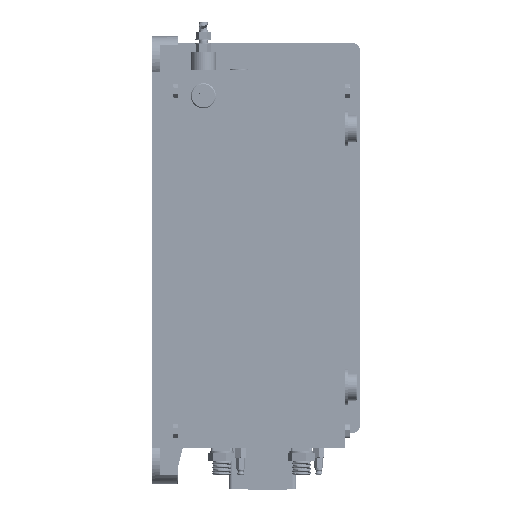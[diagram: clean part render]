
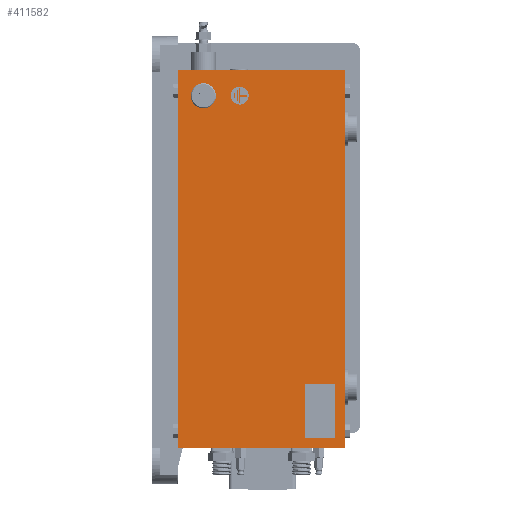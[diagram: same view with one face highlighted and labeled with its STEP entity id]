
A CAD part, left-side view. The second image highlights one B-rep face of the part: STEP entity #411582.
In plain terms, the highlighted planar face has unit normal (-1, 0, 0).
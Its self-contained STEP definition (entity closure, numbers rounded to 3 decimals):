
#8572 = CARTESIAN_POINT ( 'NONE',  ( -493.592, -85.936, -148.628 ) ) ;
#9611 = VERTEX_POINT ( 'NONE', #189044 ) ;
#21515 = EDGE_CURVE ( 'NONE', #218942, #453712, #30797, .T. ) ;
#30797 = LINE ( 'NONE', #283880, #85204 ) ;
#40873 = VERTEX_POINT ( 'NONE', #306424 ) ;
#71154 = LINE ( 'NONE', #220144, #448772 ) ;
#73765 = ORIENTED_EDGE ( 'NONE', *, *, #424868, .T. ) ;
#74831 = DIRECTION ( 'NONE',  ( 1., 0., 0. ) ) ;
#80934 = ORIENTED_EDGE ( 'NONE', *, *, #21515, .T. ) ;
#85204 = VECTOR ( 'NONE', #184434, 1000. ) ;
#86537 = DIRECTION ( 'NONE',  ( 0., 0., -1. ) ) ;
#92512 = EDGE_LOOP ( 'NONE', ( #331808, #298315, #73765, #80934 ) ) ;
#105702 = LINE ( 'NONE', #401207, #368453 ) ;
#106881 = CARTESIAN_POINT ( 'NONE',  ( -493.592, 100.064, -148.628 ) ) ;
#112632 = PLANE ( 'NONE',  #246499 ) ;
#183691 = DIRECTION ( 'NONE',  ( 0., 1., 0. ) ) ;
#184434 = DIRECTION ( 'NONE',  ( 0., 0., -1. ) ) ;
#188265 = DIRECTION ( 'NONE',  ( 0., -1., 0. ) ) ;
#189044 = CARTESIAN_POINT ( 'NONE',  ( -493.592, -85.936, -148.628 ) ) ;
#195203 = EDGE_CURVE ( 'NONE', #40873, #9611, #332598, .T. ) ;
#202541 = EDGE_CURVE ( 'NONE', #453712, #9611, #71154, .T. ) ;
#218942 = VERTEX_POINT ( 'NONE', #422437 ) ;
#220144 = CARTESIAN_POINT ( 'NONE',  ( -493.592, -77.936, -148.628 ) ) ;
#246499 = AXIS2_PLACEMENT_3D ( 'NONE', #441240, #74831, #188265 ) ;
#283880 = CARTESIAN_POINT ( 'NONE',  ( -493.592, 100.064, 271.372 ) ) ;
#298315 = ORIENTED_EDGE ( 'NONE', *, *, #195203, .F. ) ;
#306424 = CARTESIAN_POINT ( 'NONE',  ( -493.592, -85.936, 273.372 ) ) ;
#321861 = DIRECTION ( 'NONE',  ( 0., -1., 0. ) ) ;
#331808 = ORIENTED_EDGE ( 'NONE', *, *, #202541, .T. ) ;
#332598 = LINE ( 'NONE', #8572, #439373 ) ;
#368453 = VECTOR ( 'NONE', #183691, 1000. ) ;
#398780 = FACE_OUTER_BOUND ( 'NONE', #92512, .T. ) ;
#401207 = CARTESIAN_POINT ( 'NONE',  ( -493.592, 100.064, 273.372 ) ) ;
#411582 = ADVANCED_FACE ( 'NONE', ( #398780 ), #112632, .F. ) ;
#422437 = CARTESIAN_POINT ( 'NONE',  ( -493.592, 100.064, 273.372 ) ) ;
#424868 = EDGE_CURVE ( 'NONE', #40873, #218942, #105702, .T. ) ;
#439373 = VECTOR ( 'NONE', #86537, 1000. ) ;
#441240 = CARTESIAN_POINT ( 'NONE',  ( -493.592, -235.936, -68.628 ) ) ;
#448772 = VECTOR ( 'NONE', #321861, 1000. ) ;
#453712 = VERTEX_POINT ( 'NONE', #106881 ) ;
